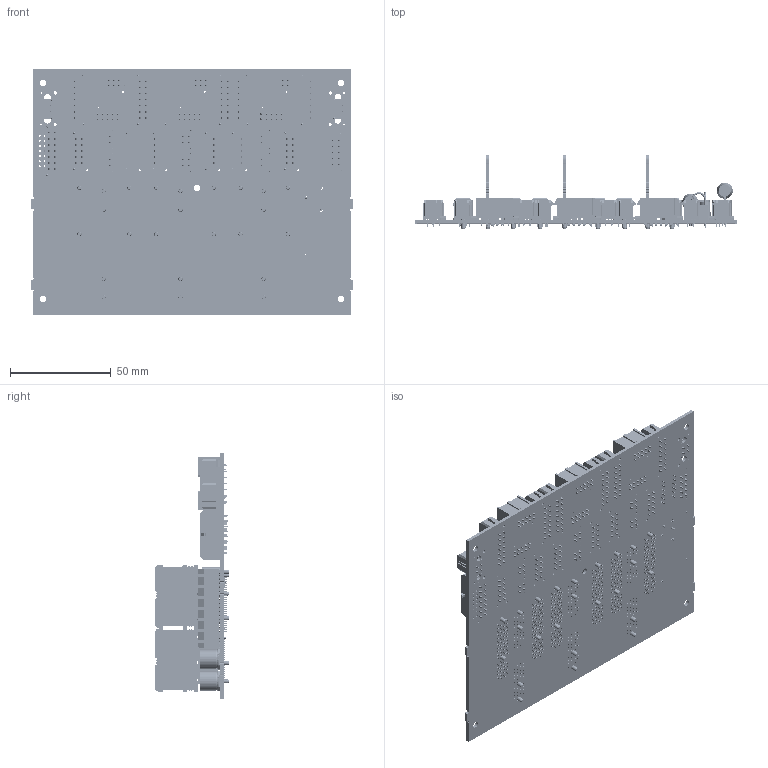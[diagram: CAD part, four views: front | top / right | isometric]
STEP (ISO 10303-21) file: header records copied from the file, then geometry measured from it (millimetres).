
FILE_DESCRIPTION (( 'STEP AP214' ), '1' );
FILE_NAME ('P028.024.E006 6-Axis CANbus with bridge dummies (no mating connectors, no drives).step', '2020-07-22T13:58:20', ( 'a_neacsu' ), ( '' ), 'SwSTEP 2.0', 'SolidWorks 2017', '' );
FILE_SCHEMA (( 'AUTOMOTIVE_DESIGN' ));
Length unit declared in the file: millimetre
Products named in the file (154): foot_cap_10x10_1; alelcap_sm10x10_1; P028.024.E006 6-Axis CANbus with bridge dummies (no mating connectors, no drives); SMD red LED; microfit_pcb_2x5; IHLP4040DZER220M11; can_10x10_1; Dummy; LED PLCC2; LM2678; DIPsw-Horz_6; PCIe4xVertical_FCI_10018783; microfit_pcb_2x2; P397.710.0001.10B PCB; microfit_pcb_2x7; microfit_pcb_2x7_D‚faut; Cgrid_2x5_vert_90130-1210; microfit_pcb_2x5_D‚faut; SMD white LED; microfit_pcb_2x2_D‚faut; PCIe_36_vertical_tyco_1734774-4; Inductor_77A; cap_10x10x12; DO210A; DIPsw-Horz; DO-214AA SMB; Inductor_77A_3.9uH 12A; Inductor_77A_5.6uH 8A; DO210A_Vertical, 6.35mm
Assembly tree (90 placements, depth 3):
  foot_cap_10x10_1
  alelcap_sm10x10_1
  P028.024.E006 6-Axis CANbus with bridge dummies (no mating connectors, no drives)
    P397.710.0001.10B PCB
    LM2678
    IHLP4040DZER220M11
    DO-214AA SMB
    DO210A_Vertical, 6.35mm  x2
    Inductor_77A_5.6uH 8A
    Inductor_77A_3.9uH 12A
    cap_10x10x12  x15
      can_10x10_1
      foot_cap_10x10_1
      alelcap_sm10x10_1
    PCIe4xVertical_FCI_10018783  x6
    PCIe_36_vertical_tyco_1734774-4  x6
    SMD white LED  x2
    LED PLCC2  x8
    SMD red LED  x6
    microfit_pcb_2x2_D‚faut  x8
    microfit_pcb_2x5_D‚faut  x7
    Cgrid_2x5_vert_90130-1210  x6
    microfit_pcb_2x7_D‚faut  x7
    DIPsw-Horz_6
    Dummy  x6
  SMD red LED
  foot_cap_10x10_1
Bounding box: 160 x 37.11 x 122 mm (x, y, z)
Volume: 99374.4 mm3; surface area: 135342 mm2
Topology: 133 solids, 139 shells, 25748 faces, 68386 edges, 44690 vertices
Faces by surface type: plane 20530, cylinder 4848, cone 188, bspline 170, torus 12
Entity records: 185035 total; most frequent: CARTESIAN_POINT 26952, ORIENTED_EDGE 25854, DIRECTION 24990, EDGE_CURVE 12927, LINE 10706, VECTOR 10706, VERTEX_POINT 8478, AXIS2_PLACEMENT_3D 7142
